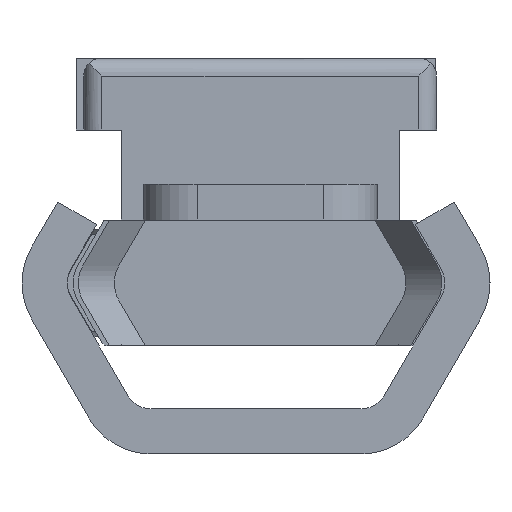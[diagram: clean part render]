
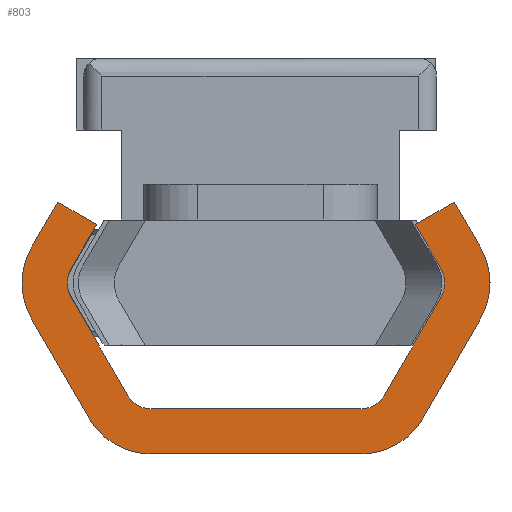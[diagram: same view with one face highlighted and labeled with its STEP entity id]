
A CAD part, left-side view. The second image highlights one B-rep face of the part: STEP entity #803.
In plain terms, the highlighted planar face has unit normal (-1, 0, 0).
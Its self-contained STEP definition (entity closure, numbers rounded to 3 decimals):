
#803 = ADVANCED_FACE( '', ( #1608 ), #1609, .F. );
#1608 = FACE_OUTER_BOUND( '', #2707, .T. );
#1609 = PLANE( '', #2708 );
#2707 = EDGE_LOOP( '', ( #4417, #4418, #4419, #4420, #4421, #4422, #4423, #4424, #4425, #4426, #4427, #4428, #4429, #4430, #4431, #4432, #4433, #4434, #4435, #4436 ) );
#2708 = AXIS2_PLACEMENT_3D( '', #4437, #4438, #4439 );
#4417 = ORIENTED_EDGE( '', *, *, #4984, .F. );
#4418 = ORIENTED_EDGE( '', *, *, #4908, .F. );
#4419 = ORIENTED_EDGE( '', *, *, #5303, .F. );
#4420 = ORIENTED_EDGE( '', *, *, #4872, .F. );
#4421 = ORIENTED_EDGE( '', *, *, #4959, .F. );
#4422 = ORIENTED_EDGE( '', *, *, #5435, .F. );
#4423 = ORIENTED_EDGE( '', *, *, #5333, .F. );
#4424 = ORIENTED_EDGE( '', *, *, #5368, .T. );
#4425 = ORIENTED_EDGE( '', *, *, #5106, .F. );
#4426 = ORIENTED_EDGE( '', *, *, #5264, .T. );
#4427 = ORIENTED_EDGE( '', *, *, #5338, .F. );
#4428 = ORIENTED_EDGE( '', *, *, #4773, .T. );
#4429 = ORIENTED_EDGE( '', *, *, #4807, .F. );
#4430 = ORIENTED_EDGE( '', *, *, #4778, .T. );
#4431 = ORIENTED_EDGE( '', *, *, #5436, .F. );
#4432 = ORIENTED_EDGE( '', *, *, #5092, .F. );
#4433 = ORIENTED_EDGE( '', *, *, #4903, .F. );
#4434 = ORIENTED_EDGE( '', *, *, #5437, .F. );
#4435 = ORIENTED_EDGE( '', *, *, #5438, .F. );
#4436 = ORIENTED_EDGE( '', *, *, #4796, .F. );
#4437 = CARTESIAN_POINT( '', ( 0., -5.825, -4. ) );
#4438 = DIRECTION( '', ( 1., 0., 0. ) );
#4439 = DIRECTION( '', ( 0., 0., -1. ) );
#4773 = EDGE_CURVE( '', #5537, #5538, #5539, .T. );
#4778 = EDGE_CURVE( '', #5546, #5547, #5548, .T. );
#4796 = EDGE_CURVE( '', #5579, #5580, #5581, .T. );
#4807 = EDGE_CURVE( '', #5546, #5538, #5598, .T. );
#4872 = EDGE_CURVE( '', #5712, #5713, #5714, .T. );
#4903 = EDGE_CURVE( '', #5765, #5766, #5767, .T. );
#4908 = EDGE_CURVE( '', #5774, #5775, #5776, .T. );
#4959 = EDGE_CURVE( '', #5860, #5712, #5861, .T. );
#4984 = EDGE_CURVE( '', #5775, #5579, #5900, .T. );
#5092 = EDGE_CURVE( '', #5766, #6069, #6070, .T. );
#5106 = EDGE_CURVE( '', #6092, #6093, #6094, .T. );
#5264 = EDGE_CURVE( '', #6092, #6321, #6322, .T. );
#5303 = EDGE_CURVE( '', #5713, #5774, #6377, .T. );
#5333 = EDGE_CURVE( '', #6412, #6413, #6414, .T. );
#5338 = EDGE_CURVE( '', #5537, #6321, #6421, .T. );
#5368 = EDGE_CURVE( '', #6412, #6093, #6458, .T. );
#5435 = EDGE_CURVE( '', #6413, #5860, #6535, .T. );
#5436 = EDGE_CURVE( '', #6069, #5547, #6536, .T. );
#5437 = EDGE_CURVE( '', #6537, #5765, #6538, .T. );
#5438 = EDGE_CURVE( '', #5580, #6537, #6539, .T. );
#5537 = VERTEX_POINT( '', #6665 );
#5538 = VERTEX_POINT( '', #6666 );
#5539 = CIRCLE( '', #6667, 1.5 );
#5546 = VERTEX_POINT( '', #6676 );
#5547 = VERTEX_POINT( '', #6677 );
#5548 = CIRCLE( '', #6678, 1.5 );
#5579 = VERTEX_POINT( '', #6719 );
#5580 = VERTEX_POINT( '', #6720 );
#5581 = CIRCLE( '', #6721, 4. );
#5598 = LINE( '', #6740, #6741 );
#5712 = VERTEX_POINT( '', #6894 );
#5713 = VERTEX_POINT( '', #6895 );
#5714 = CIRCLE( '', #6896, 4. );
#5765 = VERTEX_POINT( '', #6962 );
#5766 = VERTEX_POINT( '', #6963 );
#5767 = LINE( '', #6964, #6965 );
#5774 = VERTEX_POINT( '', #6975 );
#5775 = VERTEX_POINT( '', #6976 );
#5776 = CIRCLE( '', #6977, 4. );
#5860 = VERTEX_POINT( '', #7096 );
#5861 = LINE( '', #7097, #7098 );
#5900 = LINE( '', #7149, #7150 );
#6069 = VERTEX_POINT( '', #7392 );
#6070 = LINE( '', #7393, #7394 );
#6092 = VERTEX_POINT( '', #7423 );
#6093 = VERTEX_POINT( '', #7424 );
#6094 = LINE( '', #7425, #7426 );
#6321 = VERTEX_POINT( '', #7735 );
#6322 = CIRCLE( '', #7736, 1.5 );
#6377 = LINE( '', #7797, #7798 );
#6412 = VERTEX_POINT( '', #7841 );
#6413 = VERTEX_POINT( '', #7842 );
#6414 = LINE( '', #7843, #7844 );
#6421 = LINE( '', #7854, #7855 );
#6458 = CIRCLE( '', #7922, 1.5 );
#6535 = LINE( '', #8016, #8017 );
#6536 = LINE( '', #8018, #8019 );
#6537 = VERTEX_POINT( '', #8020 );
#6538 = CIRCLE( '', #8021, 4. );
#6539 = LINE( '', #8022, #8023 );
#6665 = CARTESIAN_POINT( '', ( 0., -5.825, -2.5 ) );
#6666 = CARTESIAN_POINT( '', ( 0., -7.124, -3.25 ) );
#6667 = AXIS2_PLACEMENT_3D( '', #8107, #8108, #8109 );
#6676 = CARTESIAN_POINT( '', ( 0., -10.299, -8.75 ) );
#6677 = CARTESIAN_POINT( '', ( 0., -10.299, -10.25 ) );
#6678 = AXIS2_PLACEMENT_3D( '', #8115, #8116, #8117 );
#6719 = CARTESIAN_POINT( '', ( 0., -5.825, 0. ) );
#6720 = CARTESIAN_POINT( '', ( 0., -9.289, -2. ) );
#6721 = AXIS2_PLACEMENT_3D( '', #8140, #8141, #8142 );
#6740 = CARTESIAN_POINT( '', ( 0., -10.299, -8.75 ) );
#6741 = VECTOR( '', #8160, 1000. );
#6894 = CARTESIAN_POINT( '', ( 0., 12.464, -11.5 ) );
#6895 = CARTESIAN_POINT( '', ( 0., 12.464, -7.5 ) );
#6896 = AXIS2_PLACEMENT_3D( '', #8253, #8254, #8255 );
#6962 = CARTESIAN_POINT( '', ( 0., -12.464, -11.5 ) );
#6963 = CARTESIAN_POINT( '', ( 0., -11.021, -14. ) );
#6964 = CARTESIAN_POINT( '', ( 0., -12.464, -11.5 ) );
#6965 = VECTOR( '', #8295, 1000. );
#6975 = CARTESIAN_POINT( '', ( 0., 9.289, -2. ) );
#6976 = CARTESIAN_POINT( '', ( 0., 5.825, 0. ) );
#6977 = AXIS2_PLACEMENT_3D( '', #8299, #8300, #8301 );
#7096 = CARTESIAN_POINT( '', ( 0., 11.021, -14. ) );
#7097 = CARTESIAN_POINT( '', ( 0., 11.021, -14. ) );
#7098 = VECTOR( '', #8380, 1000. );
#7149 = CARTESIAN_POINT( '', ( 0., 5.825, 0. ) );
#7150 = VECTOR( '', #8411, 1000. );
#7392 = CARTESIAN_POINT( '', ( 0., -8.856, -12.75 ) );
#7393 = CARTESIAN_POINT( '', ( 0., -11.021, -14. ) );
#7394 = VECTOR( '', #8521, 1000. );
#7423 = CARTESIAN_POINT( '', ( 0., 7.124, -3.25 ) );
#7424 = CARTESIAN_POINT( '', ( 0., 10.299, -8.75 ) );
#7425 = CARTESIAN_POINT( '', ( 0., 7.124, -3.25 ) );
#7426 = VECTOR( '', #8538, 1000. );
#7735 = CARTESIAN_POINT( '', ( 0., 5.825, -2.5 ) );
#7736 = AXIS2_PLACEMENT_3D( '', #8719, #8720, #8721 );
#7797 = CARTESIAN_POINT( '', ( 0., 12.464, -7.5 ) );
#7798 = VECTOR( '', #8785, 1000. );
#7841 = CARTESIAN_POINT( '', ( 0., 10.299, -10.25 ) );
#7842 = CARTESIAN_POINT( '', ( 0., 8.856, -12.75 ) );
#7843 = CARTESIAN_POINT( '', ( 0., 10.299, -10.25 ) );
#7844 = VECTOR( '', #8809, 1000. );
#7854 = CARTESIAN_POINT( '', ( 0., -5.825, -2.5 ) );
#7855 = VECTOR( '', #8813, 1000. );
#7922 = AXIS2_PLACEMENT_3D( '', #8830, #8831, #8832 );
#8016 = CARTESIAN_POINT( '', ( 0., 8.856, -12.75 ) );
#8017 = VECTOR( '', #8883, 1000. );
#8018 = CARTESIAN_POINT( '', ( 0., -8.856, -12.75 ) );
#8019 = VECTOR( '', #8884, 1000. );
#8020 = CARTESIAN_POINT( '', ( 0., -12.464, -7.5 ) );
#8021 = AXIS2_PLACEMENT_3D( '', #8885, #8886, #8887 );
#8022 = CARTESIAN_POINT( '', ( 0., -9.289, -2. ) );
#8023 = VECTOR( '', #8888, 1000. );
#8107 = CARTESIAN_POINT( '', ( 0., -5.825, -4. ) );
#8108 = DIRECTION( '', ( 1., 0., 0. ) );
#8109 = DIRECTION( '', ( 0., 0., -1. ) );
#8115 = CARTESIAN_POINT( '', ( 0., -9., -9.5 ) );
#8116 = DIRECTION( '', ( 1., 0., 0. ) );
#8117 = DIRECTION( '', ( 0., 0., -1. ) );
#8140 = CARTESIAN_POINT( '', ( 0., -5.825, -4. ) );
#8141 = DIRECTION( '', ( 1., 0., 0. ) );
#8142 = DIRECTION( '', ( 0., 0., -1. ) );
#8160 = DIRECTION( '', ( 0., 0.5, 0.866 ) );
#8253 = CARTESIAN_POINT( '', ( 0., 9., -9.5 ) );
#8254 = DIRECTION( '', ( 1., 0., 0. ) );
#8255 = DIRECTION( '', ( 0., 0., -1. ) );
#8295 = DIRECTION( '', ( 0., 0.5, -0.866 ) );
#8299 = CARTESIAN_POINT( '', ( 0., 5.825, -4. ) );
#8300 = DIRECTION( '', ( 1., 0., 0. ) );
#8301 = DIRECTION( '', ( 0., 0., -1. ) );
#8380 = DIRECTION( '', ( 0., 0.5, 0.866 ) );
#8411 = DIRECTION( '', ( 0., -1., 0. ) );
#8521 = DIRECTION( '', ( 0., 0.866, 0.5 ) );
#8538 = DIRECTION( '', ( 0., 0.5, -0.866 ) );
#8719 = CARTESIAN_POINT( '', ( 0., 5.825, -4. ) );
#8720 = DIRECTION( '', ( 1., 0., 0. ) );
#8721 = DIRECTION( '', ( 0., 0., -1. ) );
#8785 = DIRECTION( '', ( 0., -0.5, 0.866 ) );
#8809 = DIRECTION( '', ( 0., -0.5, -0.866 ) );
#8813 = DIRECTION( '', ( 0., 1., 0. ) );
#8830 = CARTESIAN_POINT( '', ( 0., 9., -9.5 ) );
#8831 = DIRECTION( '', ( 1., 0., 0. ) );
#8832 = DIRECTION( '', ( 0., 0., -1. ) );
#8883 = DIRECTION( '', ( 0., 0.866, -0.5 ) );
#8884 = DIRECTION( '', ( 0., -0.5, 0.866 ) );
#8885 = CARTESIAN_POINT( '', ( 0., -9., -9.5 ) );
#8886 = DIRECTION( '', ( 1., 0., 0. ) );
#8887 = DIRECTION( '', ( 0., 0., -1. ) );
#8888 = DIRECTION( '', ( 0., -0.5, -0.866 ) );
